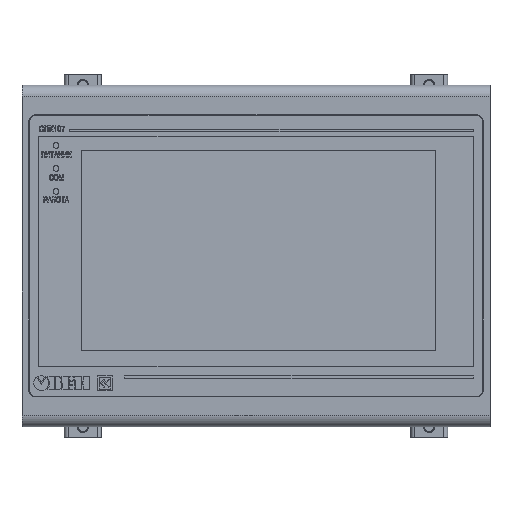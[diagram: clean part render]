
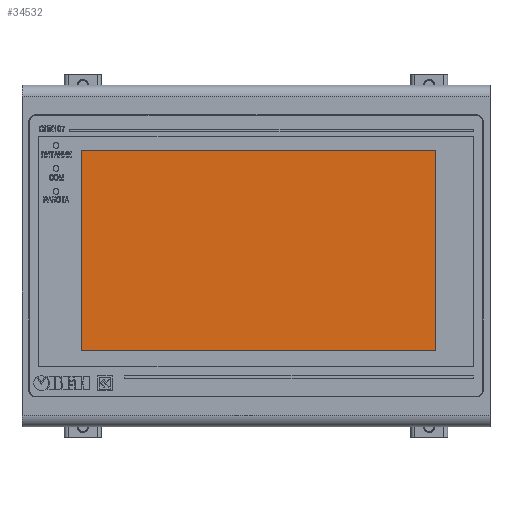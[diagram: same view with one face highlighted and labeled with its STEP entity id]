
A CAD part, top view. The second image highlights one B-rep face of the part: STEP entity #34532.
In plain terms, the highlighted planar face has unit normal (0, 0, 1).
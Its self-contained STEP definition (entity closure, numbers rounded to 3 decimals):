
#550 = ORIENTED_EDGE ( 'NONE', *, *, #54399, .T. ) ;
#1920 = DIRECTION ( 'NONE',  ( 0., -1., 0. ) ) ;
#3832 = ORIENTED_EDGE ( 'NONE', *, *, #49973, .T. ) ;
#4837 = VERTEX_POINT ( 'NONE', #55196 ) ;
#5099 = CARTESIAN_POINT ( 'NONE',  ( 22.5, 20., 0. ) ) ;
#6467 = EDGE_LOOP ( 'NONE', ( #550, #49599, #6723, #3832 ) ) ;
#6555 = EDGE_CURVE ( 'NONE', #12306, #55362, #55974, .T. ) ;
#6723 = ORIENTED_EDGE ( 'NONE', *, *, #6555, .T. ) ;
#7234 = LINE ( 'NONE', #42360, #35316 ) ;
#11099 = AXIS2_PLACEMENT_3D ( 'NONE', #22706, #47614, #47391 ) ;
#12306 = VERTEX_POINT ( 'NONE', #42878 ) ;
#14294 = FACE_OUTER_BOUND ( 'NONE', #6467, .T. ) ;
#14824 = CARTESIAN_POINT ( 'NONE',  ( 176.9, 107.4, 0. ) ) ;
#15371 = DIRECTION ( 'NONE',  ( 1., 0., 0. ) ) ;
#17207 = CARTESIAN_POINT ( 'NONE',  ( 22.5, 107.4, 0. ) ) ;
#19095 = DIRECTION ( 'NONE',  ( 0., 1., 0. ) ) ;
#19389 = VERTEX_POINT ( 'NONE', #27678 ) ;
#22706 = CARTESIAN_POINT ( 'NONE',  ( 0., 0., 0. ) ) ;
#23884 = CARTESIAN_POINT ( 'NONE',  ( 176.9, 107.4, 0. ) ) ;
#25563 = VECTOR ( 'NONE', #15371, 1000. ) ;
#27678 = CARTESIAN_POINT ( 'NONE',  ( 22.5, 107.4, 0. ) ) ;
#32071 = PLANE ( 'NONE',  #11099 ) ;
#32763 = EDGE_CURVE ( 'NONE', #4837, #12306, #61498, .T. ) ;
#34532 = ADVANCED_FACE ( 'NONE', ( #14294 ), #32071, .T. ) ;
#35316 = VECTOR ( 'NONE', #61892, 1000. ) ;
#38691 = VECTOR ( 'NONE', #19095, 1000. ) ;
#42360 = CARTESIAN_POINT ( 'NONE',  ( 22.5, 107.4, 0. ) ) ;
#42878 = CARTESIAN_POINT ( 'NONE',  ( 176.9, 20., 0. ) ) ;
#47391 = DIRECTION ( 'NONE',  ( 1., 0., 0. ) ) ;
#47614 = DIRECTION ( 'NONE',  ( 0., 0., 1. ) ) ;
#48837 = LINE ( 'NONE', #17207, #59801 ) ;
#49599 = ORIENTED_EDGE ( 'NONE', *, *, #32763, .T. ) ;
#49973 = EDGE_CURVE ( 'NONE', #55362, #19389, #7234, .T. ) ;
#54399 = EDGE_CURVE ( 'NONE', #19389, #4837, #48837, .T. ) ;
#55196 = CARTESIAN_POINT ( 'NONE',  ( 22.5, 20., 0. ) ) ;
#55362 = VERTEX_POINT ( 'NONE', #14824 ) ;
#55974 = LINE ( 'NONE', #23884, #38691 ) ;
#59801 = VECTOR ( 'NONE', #1920, 1000. ) ;
#61498 = LINE ( 'NONE', #5099, #25563 ) ;
#61892 = DIRECTION ( 'NONE',  ( -1., 0., 0. ) ) ;
